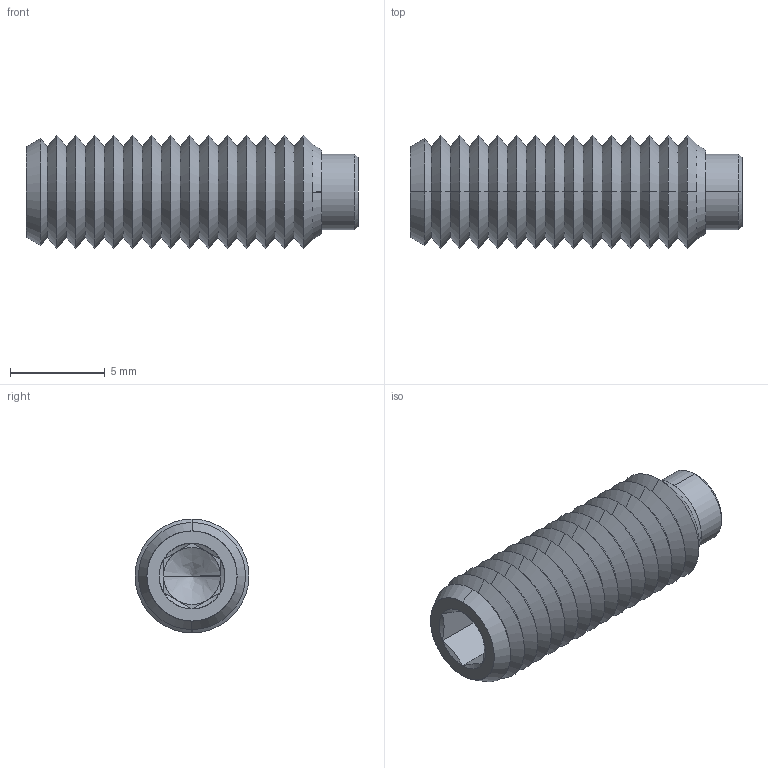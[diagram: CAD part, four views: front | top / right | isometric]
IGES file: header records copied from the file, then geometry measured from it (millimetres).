
Start section: SolidWorks IGES file using analytic representation for surfaces
Global section: file name: C:\Users\IanO\Desktop\P0120_v2_230406\P0120_v2_20230506_IGES\P0120.060-018.igs; native system: SolidWorks 2019; preprocessor: SolidWorks 2019; author: IanO; date: 230406.142400; units: millimetre
Bounding box: 17.5 x 6 x 6 mm (x, y, z)
Surface area: 568.9 mm2 (no closed solid volume)
Topology: 0 solids, 0 shells, 93 faces, 618 edges, 616 vertices
Faces by surface type: revolution 76, bspline 17
